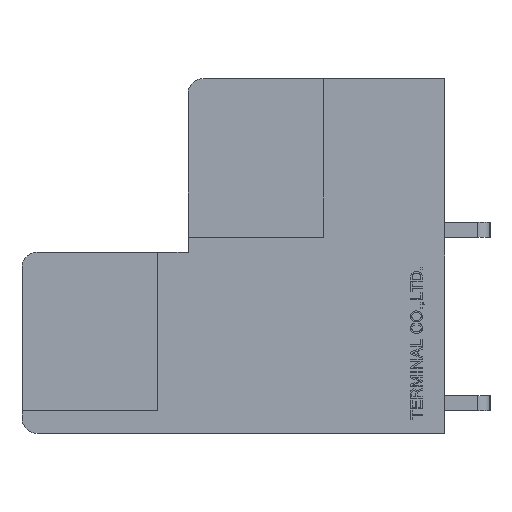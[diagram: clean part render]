
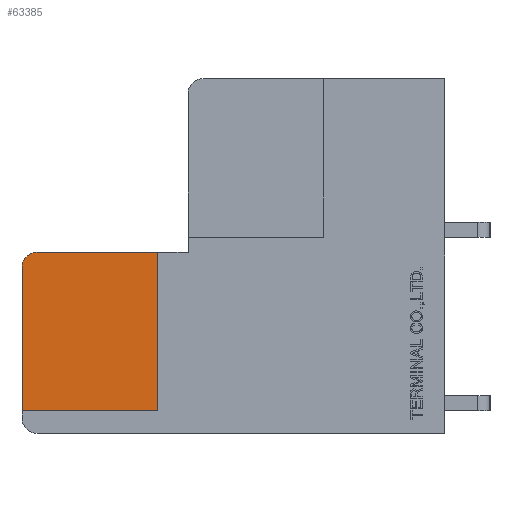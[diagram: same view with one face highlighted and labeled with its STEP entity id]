
A CAD part, left-side view. The second image highlights one B-rep face of the part: STEP entity #63385.
In plain terms, the highlighted planar face has unit normal (-1, 0, 0).
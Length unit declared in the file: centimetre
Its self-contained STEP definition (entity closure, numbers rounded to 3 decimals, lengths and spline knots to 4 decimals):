
#761=CIRCLE('',#108287,0.1);
#3607=VERTEX_POINT('',#83975);
#3608=VERTEX_POINT('',#83976);
#3611=VERTEX_POINT('',#83984);
#3613=VERTEX_POINT('',#83990);
#3614=VERTEX_POINT('',#83992);
#10258=VECTOR('',#70407,1.);
#10262=VECTOR('',#70412,1.);
#10265=VECTOR('',#70416,1.);
#10266=VECTOR('',#70419,1.);
#17771=LINE('',#83974,#10258);
#17775=LINE('',#83983,#10262);
#17778=LINE('',#83989,#10265);
#17779=LINE('',#83993,#10266);
#25388=EDGE_CURVE('',#3607,#3608,#17771,.T.);
#25392=EDGE_CURVE('',#3611,#3607,#17775,.T.);
#25395=EDGE_CURVE('',#3613,#3608,#17778,.T.);
#25396=EDGE_CURVE('',#3614,#3613,#761,.T.);
#25397=EDGE_CURVE('',#3611,#3614,#17779,.T.);
#35691=ORIENTED_EDGE('',*,*,#25392,.T.);
#35692=ORIENTED_EDGE('',*,*,#25388,.T.);
#35693=ORIENTED_EDGE('',*,*,#25395,.F.);
#35694=ORIENTED_EDGE('',*,*,#25396,.F.);
#35695=ORIENTED_EDGE('',*,*,#25397,.F.);
#55075=EDGE_LOOP('',(#35691,#35692,#35693,#35694,#35695));
#59232=FACE_BOUND('',#55075,.T.);
#63385=ADVANCED_FACE('',(#59232),#67168,.F.);
#67168=PLANE('',#108286);
#70407=DIRECTION('',(0.,0.,1.));
#70412=DIRECTION('',(0.,-1.,0.));
#70415=DIRECTION('',(1.,0.,0.));
#70416=DIRECTION('',(0.,-1.,0.));
#70417=DIRECTION('',(1.,0.,0.));
#70418=DIRECTION('',(0.,0.,-0.1));
#70419=DIRECTION('',(0.,0.,1.));
#83974=CARTESIAN_POINT('',(-1.76,-0.145,0.0375));
#83975=CARTESIAN_POINT('',(-1.76,-0.145,-0.45));
#83976=CARTESIAN_POINT('',(-1.76,-0.145,0.6));
#83983=CARTESIAN_POINT('',(-1.76,-0.1777,-0.45));
#83984=CARTESIAN_POINT('',(-1.76,0.755,-0.45));
#83988=CARTESIAN_POINT('',(-1.76,-0.6604,0.));
#83989=CARTESIAN_POINT('',(-1.76,0.655,0.6));
#83990=CARTESIAN_POINT('',(-1.76,0.655,0.6));
#83991=CARTESIAN_POINT('',(-1.76,0.655,0.5));
#83992=CARTESIAN_POINT('',(-1.76,0.755,0.5));
#83993=CARTESIAN_POINT('',(-1.76,0.755,-0.5));
#108286=AXIS2_PLACEMENT_3D('',#83988,#70415,$);
#108287=AXIS2_PLACEMENT_3D('',#83991,#70417,#70418);
